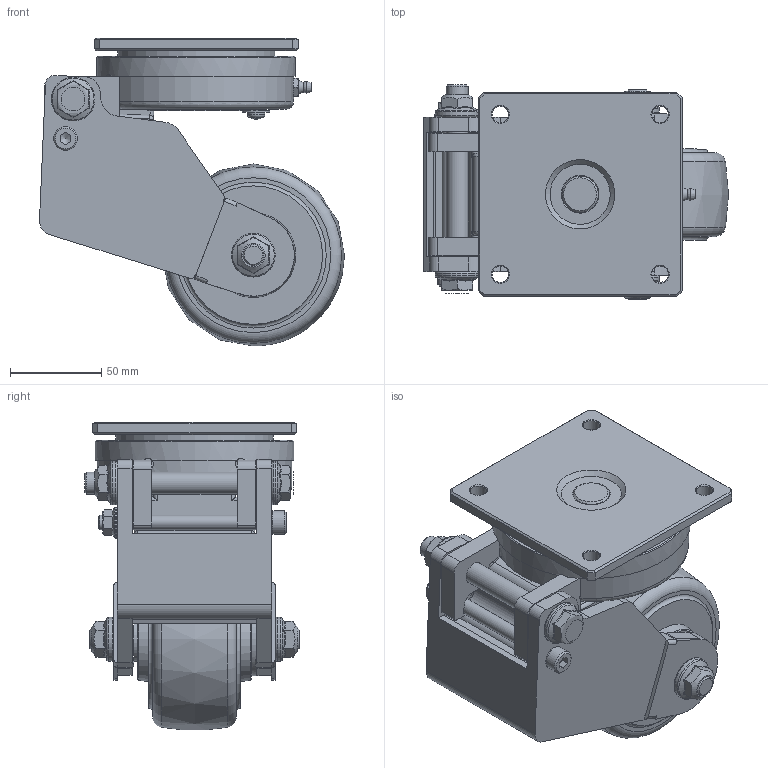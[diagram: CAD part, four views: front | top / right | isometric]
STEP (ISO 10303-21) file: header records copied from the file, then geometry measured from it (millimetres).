
FILE_DESCRIPTION(/* description */ (''),/* implementation_level */ '2;1');
FILE_NAME(/* name */ 'E:\모델링\모델링자료\GXTS-100\GXTS-100-SF-ASSY_h169.stp',/* time_stamp */ '2021-11-15T19:34:17+09:00',/* author */ ('admin'),/* organization */ (''),/* preprocessor_version */ 'ST-DEVELOPER v18.1',/* originating_system */ 'Autodesk Inventor 2021',/* authorisation */ '');
FILE_SCHEMA (('AUTOMOTIVE_DESIGN { 1 0 10303 214 3 1 1 }'));
Length unit declared in the file: millimetre
Products named in the file (1): 부품346
Bounding box: 167.27 x 117.75 x 168.91 mm (x, y, z)
Volume: 1217138.8 mm3; surface area: 148017.5 mm2
Topology: 1 solids, 2 shells, 461 faces, 1188 edges, 753 vertices
Faces by surface type: plane 232, cylinder 106, cone 61, torus 33, bspline 26, sphere 3
Full cylindrical faces by diameter (mm): 5 x2, 5.3 x1, 8 x2, 8.1 x2, 9 x4, 9.5 x1, 12 x3, 12.2 x5, 13 x1, 15 x2, 15.1 x1, 17 x1, 20 x1, 24 x5, 40.016 x1, 86.211 x1, 109 x1
Entity records: 16112 total; most frequent: CARTESIAN_POINT 4683, ORIENTED_EDGE 2372, DIRECTION 2232, EDGE_CURVE 1186, AXIS2_PLACEMENT_3D 822, VERTEX_POINT 753, LINE 588, VECTOR 588
